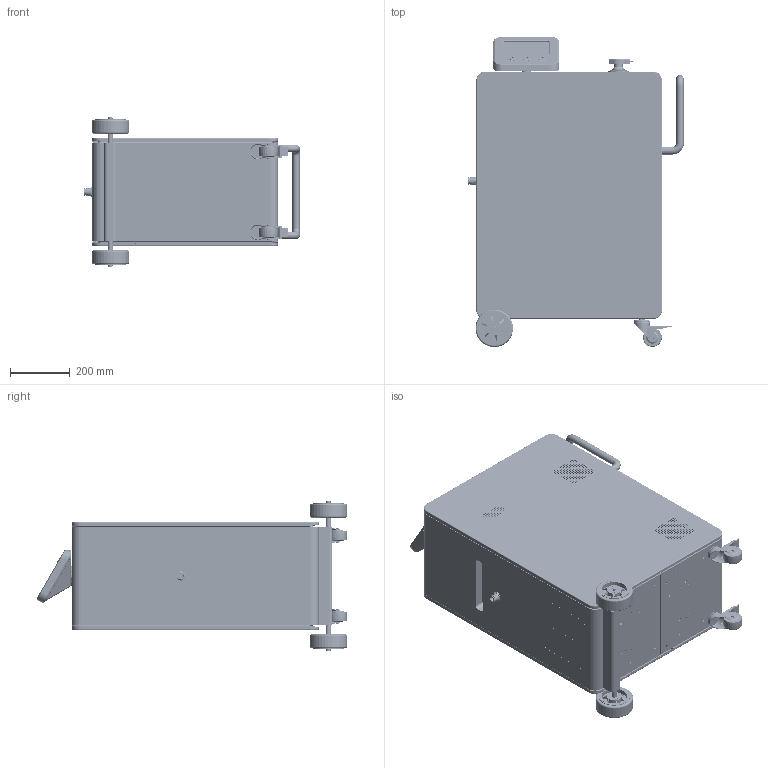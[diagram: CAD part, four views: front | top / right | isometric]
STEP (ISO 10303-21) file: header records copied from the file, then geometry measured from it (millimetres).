
FILE_DESCRIPTION (( 'STEP AP203' ), '1' );
FILE_NAME ('NHJ480(Íâ¹Û).STEP', '2026-08-28T08:05:58', ( '' ), ( '' ), 'SwSTEP 2.0', 'SolidWorks 2024', '' );
FILE_SCHEMA (( 'CONFIG_CONTROL_DESIGN' ));
Products named in the file (1): NHJ480(外观)
Bounding box: 719.3 x 1035.2 x 500 mm (x, y, z)
Volume: 8172232.8 mm3; surface area: 6484091.7 mm2
Topology: 68 solids, 69 shells, 9743 faces, 26605 edges, 17501 vertices
Faces by surface type: cylinder 5971, plane 2915, bspline 448, cone 292, torus 117
Entity records: 345129 total; most frequent: CARTESIAN_POINT 81580, DIRECTION 56145, ORIENTED_EDGE 53134, EDGE_CURVE 26567, AXIS2_PLACEMENT_3D 21697, VERTEX_POINT 17501, EDGE_LOOP 14792, VECTOR 12751
